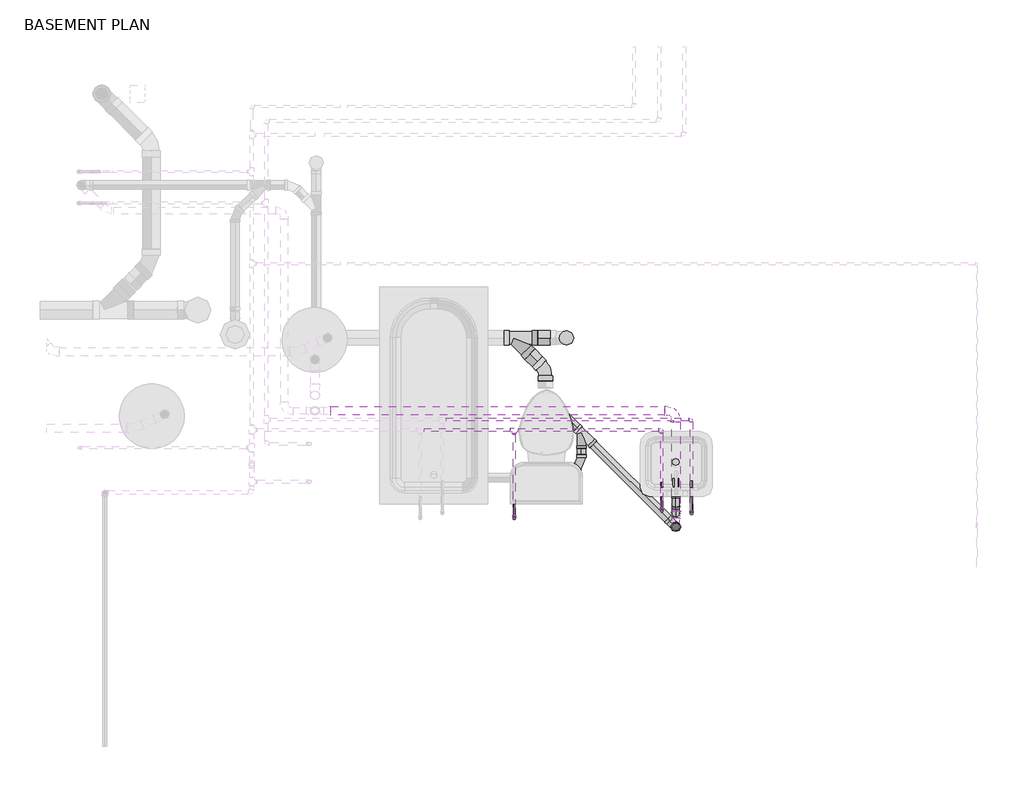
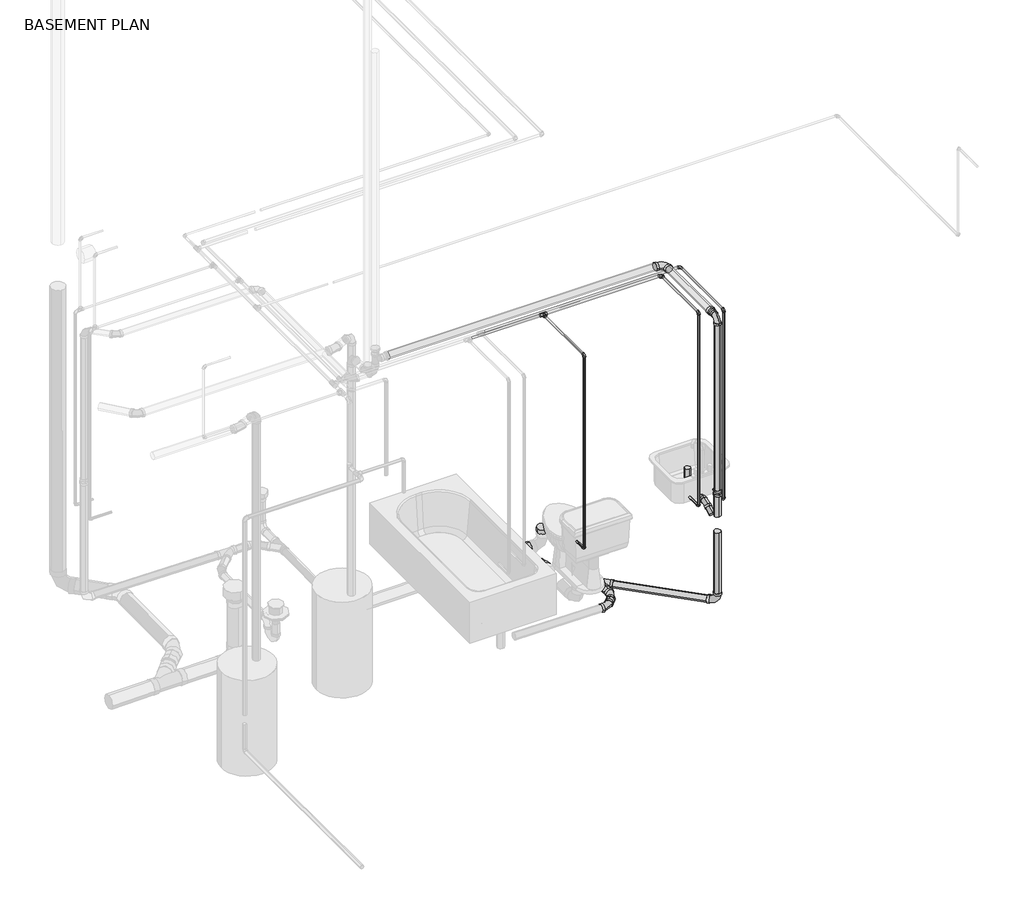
# One storey, part 4 of 6: 27 pipe segments, 23 pipe fittings.
"""IFC4 building model written with IfcOpenShell, lengths in millimetres."""

from ifc_helpers import new_model, si_unit, point, frame, frame_2d, origin, place, context, project, spatial, circle_curve, trimmed, segment, composite_curve, outline, extrude, transform, mapped, element, save
from components import bend_pvc_sch_40_dwv_standard_738aab8b, bend_pvc_sch_40_dwv_standard_a7e4f147, bend_pvc_sch_40_dwv_standard_cc7cb89c, bend_pvc_sch_40_dwv_standard_1eaeee76, bend_pvc_sch_40_dwv_standard_2ee4a350, bend_pvc_sch_40_dwv_standard_797c4d59, ges_wye_45_deg_reducing_pvc_sch_40_dwv_standard_746e6be9, ges_wye_45_deg_reducing_pvc_sch_40_dwv_standard_a6afa046, pipe_elbow_copper_k_feaaf02c, pipe_elbow_copper_k_aad62f2d, pipe_tee_copper_k_ee363fbf, pipe_transition_copper_k_46d96269, pipe_transition_copper_k_859ff352, reducer_pvc_sch_40_dwv_standard_b23fa098, reducer_pvc_sch_40_dwv_standard_230e9924

model = new_model("IFC4")

# Units and contexts
model_context = context("Model", 3, world=origin())
ifc_project = project(units=[si_unit("LENGTHUNIT", "METRE", prefix="MILLI")], contexts=[model_context])

# Site, building, storey
site = spatial("IfcSite", under=ifc_project)
building = spatial("IfcBuilding", under=site)
storey = spatial("IfcBuildingStorey", under=building, Name="BASEMENT PLAN", Elevation=-2743.2)

# Pipe fittings
placement = place(None, origin())
bend_pvc_sch_40_dwv_standard_shape = bend_pvc_sch_40_dwv_standard_738aab8b(model_context)
element("IfcPipeFitting", 1, ObjectType="Bend - PVC - Sch 40 - DWV : Standard", at=placement, inside=storey, context=model_context, shape_type="MappedRepresentation", body=[
    mapped(bend_pvc_sch_40_dwv_standard_shape, transform((15594.199176, 4095.2455332, -344.2899833), x_axis=(0.0, 0.0, 1.0), y_axis=(0.0, 1.0, 0.0), z_axis=(-1.0, 0.0, 0.0))),
])
bend_pvc_sch_40_dwv_standard_2_shape = bend_pvc_sch_40_dwv_standard_a7e4f147(model_context)
element("IfcPipeFitting", 2, ObjectType="Bend - PVC - Sch 40 - DWV : Standard", at=placement, inside=storey, context=model_context, shape_type="MappedRepresentation", body=[
    mapped(bend_pvc_sch_40_dwv_standard_2_shape, transform((14676.5331398, 5200.3173779, -2980.2802919), x_axis=(0.0, 0.9999457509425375, -0.010416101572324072), y_axis=(-0.9999999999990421, -1.441844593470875e-08, -1.3841708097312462e-06), z_axis=(-1.3842459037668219e-06, 0.010416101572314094, 0.9999457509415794))),
])
bend_pvc_sch_40_dwv_standard_3_shape = bend_pvc_sch_40_dwv_standard_cc7cb89c(model_context)
element("IfcPipeFitting", 3, ObjectType="Bend - PVC - Sch 40 - DWV : Standard", at=placement, inside=storey, context=model_context, shape_type="MappedRepresentation", body=[
    mapped(bend_pvc_sch_40_dwv_standard_3_shape, transform((15594.199176, 4269.5548038, -2165.5484433), x_axis=(0.0, -1.0, 0.0), y_axis=(0.0, 0.0, -1.0), z_axis=(1.0, 0.0, 0.0))),
])
bend_pvc_sch_40_dwv_standard_4_shape = bend_pvc_sch_40_dwv_standard_1eaeee76(model_context)
element("IfcPipeFitting", 4, ObjectType="Bend - PVC - Sch 40 - DWV : Standard", at=placement, inside=storey, context=model_context, shape_type="MappedRepresentation", body=[
    mapped(bend_pvc_sch_40_dwv_standard_4_shape, transform((15594.1218834, 4095.1682417, -2974.3840948), x_axis=(0.0, 0.0, -1.0), y_axis=(-0.7071067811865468, 0.7071067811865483, 0.0), z_axis=(0.7071067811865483, 0.7071067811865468, 0.0))),
])
element("IfcPipeFitting", 5, ObjectType="Bend - PVC - Sch 40 - DWV : Standard", at=placement, inside=storey, context=model_context, shape_type="MappedRepresentation", body=[
    mapped(bend_pvc_sch_40_dwv_standard_4_shape, transform((15594.199176, 4910.5049895, -344.2899833), x_axis=(0.0, 1.0, 0.0), y_axis=(-1.0, 0.0, 0.0), z_axis=(0.0, 0.0, 1.0))),
])
bend_pvc_sch_40_dwv_standard_5_shape = bend_pvc_sch_40_dwv_standard_2ee4a350(model_context)
element("IfcPipeFitting", 6, ObjectType="Bend - PVC - Sch 40 - DWV : Standard", at=placement, inside=storey, context=model_context, shape_type="MappedRepresentation", body=[
    mapped(bend_pvc_sch_40_dwv_standard_5_shape, transform((14826.0517602, 4440.7535969, -2971.5701327), x_axis=(0.9999500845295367, 0.0, -0.009991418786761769), y_axis=(-4.7351171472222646e-05, 0.9999887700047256, -0.004738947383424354), z_axis=(0.009991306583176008, 0.004739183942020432, 0.9999388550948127))),
])
bend_pvc_sch_40_dwv_standard_6_shape = bend_pvc_sch_40_dwv_standard_797c4d59(model_context)
element("IfcPipeFitting", 7, ObjectType="Bend - PVC - Sch 40 - DWV : Standard", at=placement, inside=storey, context=model_context, shape_type="MappedRepresentation", body=[
    mapped(bend_pvc_sch_40_dwv_standard_6_shape, transform((14930.5610299, 4545.2628666, -2973.1253177), x_axis=(0.7070671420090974, 0.707067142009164, -0.010588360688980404), y_axis=(-0.7071321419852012, 0.7070687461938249, -0.004233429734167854), z_axis=(0.004493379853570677, 0.010480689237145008, 0.9999349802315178))),
])
ges_wye_45_deg_reducing_pvc_sch_40_dwv_standard_shape = ges_wye_45_deg_reducing_pvc_sch_40_dwv_standard_746e6be9(model_context)
element("IfcPipeFitting", 8, ObjectType="GES Wye 45 Deg Reducing - PVC - Sch 40 - DWV : Standard", at=placement, inside=storey, context=model_context, shape_type="MappedRepresentation", body=[
    mapped(ges_wye_45_deg_reducing_pvc_sch_40_dwv_standard_shape, transform((14453.0219794, 5423.7988348, -2982.6085331), x_axis=(0.9999457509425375, 0.0, 0.010416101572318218), y_axis=(0.0, 1.0, 0.0), z_axis=(-0.010416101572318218, 0.0, 0.9999457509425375))),
])
ges_wye_45_deg_reducing_pvc_sch_40_dwv_standard_2_shape = ges_wye_45_deg_reducing_pvc_sch_40_dwv_standard_a6afa046(model_context)
element("IfcPipeFitting", 9, ObjectType="GES Wye 45 Deg Reducing - PVC - Sch 40 - DWV : Standard", at=placement, inside=storey, context=model_context, shape_type="MappedRepresentation", body=[
    mapped(ges_wye_45_deg_reducing_pvc_sch_40_dwv_standard_2_shape, transform((14930.5610299, 4758.726762, -2975.362712), x_axis=(0.7070925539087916, -0.7070728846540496, 0.008249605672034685), y_axis=(0.7071200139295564, 0.7070630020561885, -0.006572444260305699), z_axis=(-0.0011857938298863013, 0.010480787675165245, 0.9999443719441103))),
])
pipe_elbow_copper_k_shape = pipe_elbow_copper_k_feaaf02c(model_context)
element("IfcPipeFitting", 10, ObjectType="Pipe Elbow : Copper- K", at=placement, inside=storey, context=model_context, shape_type="MappedRepresentation", body=[
    mapped(pipe_elbow_copper_k_shape, transform((15494.8254798, 4776.6618491, -334.4523585), x_axis=(0.0, 1.0, 0.0), y_axis=(-1.0, 0.0, 0.0), z_axis=(0.0, 0.0, 1.0))),
])
pipe_elbow_copper_k_2_shape = pipe_elbow_copper_k_aad62f2d(model_context)
element("IfcPipeFitting", 11, ObjectType="Pipe Elbow : Copper- K", at=placement, inside=storey, context=model_context, shape_type="MappedRepresentation", body=[
    mapped(pipe_elbow_copper_k_2_shape, transform((15704.3754798, 4850.0281655, -372.5523585), x_axis=(0.0, 1.0, 0.0), y_axis=(-1.0, 0.0, 0.0), z_axis=(0.0, 0.0, 1.0))),
])
element("IfcPipeFitting", 12, ObjectType="Pipe Elbow : Copper- K", at=placement, inside=storey, context=model_context, shape_type="MappedRepresentation", body=[
    mapped(pipe_elbow_copper_k_2_shape, transform((15704.3754798, 4189.6281655, -372.5523585), x_axis=(0.0, -1.0, 0.0), y_axis=(0.0, 0.0, -1.0), z_axis=(1.0, 0.0, 0.0))),
])
element("IfcPipeFitting", 13, ObjectType="Pipe Elbow : Copper- K", at=placement, inside=storey, context=model_context, shape_type="MappedRepresentation", body=[
    mapped(pipe_elbow_copper_k_2_shape, transform((15704.3754798, 4189.6281655, -2133.6), x_axis=(0.0, 0.0, -1.0), y_axis=(0.0, 1.0, 0.0), z_axis=(1.0, 0.0, 0.0))),
])
element("IfcPipeFitting", 14, ObjectType="Pipe Elbow : Copper- K", at=placement, inside=storey, context=model_context, shape_type="MappedRepresentation", body=[
    mapped(pipe_elbow_copper_k_2_shape, transform((15494.8254798, 4208.3368491, -334.4523585), x_axis=(0.0, -1.0, 0.0), y_axis=(0.0, 0.0, -1.0), z_axis=(1.0, 0.0, 0.0))),
])
element("IfcPipeFitting", 15, ObjectType="Pipe Elbow : Copper- K", at=placement, inside=storey, context=model_context, shape_type="MappedRepresentation", body=[
    mapped(pipe_elbow_copper_k_2_shape, transform((15494.8254798, 4208.3368491, -2133.6), x_axis=(0.0, 0.0, -1.0), y_axis=(0.0, 1.0, 0.0), z_axis=(1.0, 0.0, 0.0))),
])
element("IfcPipeFitting", 16, ObjectType="Pipe Elbow : Copper- K", at=placement, inside=storey, context=model_context, shape_type="MappedRepresentation", body=[
    mapped(pipe_elbow_copper_k_2_shape, transform((14457.5203863, 4155.9493491, -334.4523585), x_axis=(0.0, -1.0, 0.0), y_axis=(0.0, 0.0, -1.0), z_axis=(1.0, 0.0, 0.0))),
])
element("IfcPipeFitting", 17, ObjectType="Pipe Elbow : Copper- K", at=placement, inside=storey, context=model_context, shape_type="MappedRepresentation", body=[
    mapped(pipe_elbow_copper_k_2_shape, transform((14457.5203863, 4155.9493491, -2133.6), x_axis=(0.0, 0.0, -1.0), y_axis=(0.0, 1.0, 0.0), z_axis=(1.0, 0.0, 0.0))),
])
pipe_tee_copper_k_shape = pipe_tee_copper_k_ee363fbf(model_context)
element("IfcPipeFitting", 18, ObjectType="Pipe Tee : Copper- K", at=placement, inside=storey, context=model_context, shape_type="MappedRepresentation", body=[
    mapped(pipe_tee_copper_k_shape, transform((14457.5203863, 4776.6618491, -334.4523585), x_axis=(-1.0, 0.0, 0.0), y_axis=(0.0, 1.0, 0.0), z_axis=(0.0, 0.0, -1.0))),
])
pipe_transition_copper_k_shape = pipe_transition_copper_k_46d96269(model_context)
element("IfcPipeFitting", 19, ObjectType="Pipe Transition : Copper- K", at=placement, inside=storey, context=model_context, shape_type="MappedRepresentation", body=[
    mapped(pipe_transition_copper_k_shape, transform((15686.9129798, 4850.0281655, -372.5523585), x_axis=(-1.0, 0.0, 0.0), y_axis=(0.0, -1.0, 0.0), z_axis=(0.0, 0.0, 1.0))),
])
pipe_transition_copper_k_2_shape = pipe_transition_copper_k_859ff352(model_context)
element("IfcPipeFitting", 20, ObjectType="Pipe Transition : Copper- K", at=placement, inside=storey, context=model_context, shape_type="MappedRepresentation", body=[
    mapped(pipe_transition_copper_k_2_shape, transform((15494.8254798, 4756.0243491, -334.4523585), x_axis=(0.0, -1.0, 0.0), y_axis=(1.0, 0.0, 0.0), z_axis=(0.0, 0.0, 1.0))),
])
element("IfcPipeFitting", 21, ObjectType="Pipe Transition : Copper- K", at=placement, inside=storey, context=model_context, shape_type="MappedRepresentation", body=[
    mapped(pipe_transition_copper_k_2_shape, transform((14457.5203863, 4749.6743491, -334.4523585), x_axis=(0.0, -1.0, 0.0), y_axis=(1.0, 0.0, 0.0), z_axis=(0.0, 0.0, 1.0))),
])
reducer_pvc_sch_40_dwv_standard_shape = reducer_pvc_sch_40_dwv_standard_b23fa098(model_context)
element("IfcPipeFitting", 22, ObjectType="Reducer - PVC - Sch 40 - DWV : Standard", at=placement, inside=storey, context=model_context, shape_type="MappedRepresentation", body=[
    mapped(reducer_pvc_sch_40_dwv_standard_shape, transform((15594.1218834, 4095.1682417, -1993.0313239), x_axis=(0.0, 0.0, 1.0), y_axis=(0.0, 1.0, 0.0), z_axis=(-1.0, 0.0, 0.0))),
])
reducer_pvc_sch_40_dwv_standard_2_shape = reducer_pvc_sch_40_dwv_standard_230e9924(model_context)
element("IfcPipeFitting", 23, ObjectType="Reducer - PVC - Sch 40 - DWV : Standard", at=placement, inside=storey, context=model_context, shape_type="MappedRepresentation", body=[
    mapped(reducer_pvc_sch_40_dwv_standard_2_shape, transform((15594.199176, 4157.1453332, -344.2899833), x_axis=(0.0, 1.0, 0.0), y_axis=(-1.0, 0.0, 0.0), z_axis=(0.0, 0.0, 1.0))),
])

# Pipe segments
element("IfcPipeSegment", 24, ObjectType="Cast Iron - SAN/STORM", at=placement, inside=storey, context=model_context, shape_type="SweptSolid", body=[
    extrude(outline(composite_curve([segment(trimmed(circle_curve(frame_2d((0.0, 50.4031249)), 50.403125), [point((-50.4017573, 50.031817))], [point((-0.371308, 100.8048823))], False, "CARTESIAN"), True, "CONTINUOUS"), segment(trimmed(circle_curve(frame_2d((0.0, 50.4031249)), 50.403125), [point((-0.371308, 100.8048823))], [point((50.4017573, 50.7744329))], False, "CARTESIAN"), True, "CONTINUOUS"), segment(trimmed(circle_curve(frame_2d((0.0, 50.4031249)), 50.403125), [point((50.4017573, 50.7744329))], [point((0.3713079, 0.0013676))], False, "CARTESIAN"), True, "CONTINUOUS"), segment(trimmed(circle_curve(frame_2d((0.0, 50.4031249)), 50.403125), [point((0.3713079, 0.0013676))], [point((-50.4017573, 50.031817))], False, "CARTESIAN"), True, "CONTINUOUS")], self_intersect=False)), frame((14568.1281316, 5308.1829058, -3031.8099006), z_axis=(0.7071345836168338, -0.7070406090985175, 0.0073659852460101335), x_axis=(0.7070789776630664, 0.7070962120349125, -0.007366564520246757)), (0.0, 0.0, 1.0), 72.3266052),
])
element("IfcPipeSegment", 25, ObjectType="Cast Iron - SAN/STORM", at=placement, inside=storey, context=model_context, shape_type="SweptSolid", body=[
    extrude(outline(composite_curve([segment(trimmed(circle_curve(frame_2d((0.0, 50.403125)), 50.403125), [point((0.0, 0.0))], [point((-50.403125, 50.403125))], False, "CARTESIAN"), True, "CONTINUOUS"), segment(trimmed(circle_curve(frame_2d((0.0, 50.403125)), 50.403125), [point((-50.403125, 50.403125))], [point((0.0, 100.80625))], False, "CARTESIAN"), True, "CONTINUOUS"), segment(trimmed(circle_curve(frame_2d((0.0, 50.403125)), 50.403125), [point((0.0, 100.80625))], [point((50.403125, 50.403125))], False, "CARTESIAN"), True, "CONTINUOUS"), segment(trimmed(circle_curve(frame_2d((0.0, 50.403125)), 50.403125), [point((50.403125, 50.403125))], [point((0.0, 0.0))], False, "CARTESIAN"), True, "CONTINUOUS")], self_intersect=False)), frame((14623.7086568, 5373.3957098, -2980.8305469), z_axis=(0.9999879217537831, 0.0, 0.004914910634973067), x_axis=(0.004914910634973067, 0.0, -0.9999879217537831)), (0.0, 0.0, 1.0), 86.2598355),
])
element("IfcPipeSegment", 26, ObjectType="Cast Iron - SAN/STORM", at=placement, inside=storey, context=model_context, shape_type="SweptSolid", body=[
    extrude(outline(composite_curve([segment(trimmed(circle_curve(frame_2d((0.0, 50.403125)), 50.403125), [point((-50.4031249, 50.403128))], [point((3.1e-06, 100.80625))], False, "CARTESIAN"), True, "CONTINUOUS"), segment(trimmed(circle_curve(frame_2d((0.0, 50.403125)), 50.403125), [point((3.1e-06, 100.80625))], [point((50.403125, 50.4031219))], False, "CARTESIAN"), True, "CONTINUOUS"), segment(trimmed(circle_curve(frame_2d((0.0, 50.403125)), 50.403125), [point((50.403125, 50.4031219))], [point((-3e-06, 0.0))], False, "CARTESIAN"), True, "CONTINUOUS"), segment(trimmed(circle_curve(frame_2d((0.0, 50.403125)), 50.403125), [point((-3e-06, 0.0))], [point((-50.4031249, 50.403128))], False, "CARTESIAN"), True, "CONTINUOUS")], self_intersect=False)), frame((14825.8662506, 5373.3957119, -2863.9512123), z_axis=(0.00021038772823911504, -0.00028696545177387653, 0.9999999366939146), x_axis=(0.9999999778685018, 6.037400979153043e-08, -0.00021038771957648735)), (0.0, 0.0, 1.0), 35.1350724),
])
element("IfcPipeSegment", 27, ObjectType="Cast Iron - SAN/STORM", at=placement, inside=storey, context=model_context, shape_type="SweptSolid", body=[
    extrude(outline(composite_curve([segment(trimmed(circle_curve(frame_2d((15594.1218834, 4095.1682417)), 30.1625), [point((15563.9593834, 4095.1682417))], [point((15594.1218834, 4125.3307417))], False, "CARTESIAN"), True, "CONTINUOUS"), segment(trimmed(circle_curve(frame_2d((15594.1218834, 4095.1682417)), 30.1625), [point((15594.1218834, 4125.3307417))], [point((15624.2843834, 4095.1682417))], False, "CARTESIAN"), True, "CONTINUOUS"), segment(trimmed(circle_curve(frame_2d((15594.1218834, 4095.1682417)), 30.1625), [point((15624.2843834, 4095.1682417))], [point((15594.1218834, 4065.0057417))], False, "CARTESIAN"), True, "CONTINUOUS"), segment(trimmed(circle_curve(frame_2d((15594.1218834, 4095.1682417)), 30.1625), [point((15594.1218834, 4065.0057417))], [point((15563.9593834, 4095.1682417))], False, "CARTESIAN"), True, "CONTINUOUS")], self_intersect=False)), frame((0.0, 0.0, -2183.8173933), z_axis=(0.0, 0.0, 1.0), x_axis=(1.0, 0.0, 0.0)), (0.0, 0.0, 1.0), 190.7860693),
])
element("IfcPipeSegment", 28, ObjectType="Cast Iron - SAN/STORM", at=placement, inside=storey, context=model_context, shape_type="SweptSolid", body=[
    extrude(outline(composite_curve([segment(trimmed(circle_curve(frame_2d((-2165.5484433, 15594.199176)), 24.209375), [point((-2165.5484433, 15569.989801))], [point((-2189.7578183, 15594.199176))], False, "CARTESIAN"), True, "CONTINUOUS"), segment(trimmed(circle_curve(frame_2d((-2165.5484433, 15594.199176)), 24.209375), [point((-2189.7578183, 15594.199176))], [point((-2165.5484433, 15618.408551))], False, "CARTESIAN"), True, "CONTINUOUS"), segment(trimmed(circle_curve(frame_2d((-2165.5484433, 15594.199176)), 24.209375), [point((-2165.5484433, 15618.408551))], [point((-2141.3390683, 15594.199176))], False, "CARTESIAN"), True, "CONTINUOUS"), segment(trimmed(circle_curve(frame_2d((-2165.5484433, 15594.199176)), 24.209375), [point((-2141.3390683, 15594.199176))], [point((-2165.5484433, 15569.989801))], False, "CARTESIAN"), True, "CONTINUOUS")], self_intersect=False)), frame((0.0, 4315.5796038, 0.0), z_axis=(0.0, 1.0, 0.0), x_axis=(0.0, 0.0, 1.0)), (0.0, 0.0, 1.0), 118.4312755),
])
element("IfcPipeSegment", 29, ObjectType="Cast Iron - SAN/STORM", at=placement, inside=storey, context=model_context, shape_type="SweptSolid", body=[
    extrude(outline(composite_curve([segment(trimmed(circle_curve(frame_2d((15594.195025, 4551.6128792)), 24.209375), [point((15569.98565, 4551.6128792))], [point((15594.195025, 4575.8222542))], False, "CARTESIAN"), True, "CONTINUOUS"), segment(trimmed(circle_curve(frame_2d((15594.195025, 4551.6128792)), 24.209375), [point((15594.195025, 4575.8222542))], [point((15618.4044, 4551.6128792))], False, "CARTESIAN"), True, "CONTINUOUS"), segment(trimmed(circle_curve(frame_2d((15594.195025, 4551.6128792)), 24.209375), [point((15618.4044, 4551.6128792))], [point((15594.195025, 4527.4035042))], False, "CARTESIAN"), True, "CONTINUOUS"), segment(trimmed(circle_curve(frame_2d((15594.195025, 4551.6128792)), 24.209375), [point((15594.195025, 4527.4035042))], [point((15569.98565, 4551.6128792))], False, "CARTESIAN"), True, "CONTINUOUS")], self_intersect=False)), frame((0.0, 0.0, -2221.0751411), z_axis=(0.0, 0.0, 1.0), x_axis=(1.0, 0.0, 0.0)), (0.0, 0.0, 1.0), 202.3705313),
])
element("IfcPipeSegment", 30, ObjectType="Cast Iron - SAN/STORM", at=placement, inside=storey, context=model_context, shape_type="SweptSolid", body=[
    extrude(outline(composite_curve([segment(trimmed(circle_curve(frame_2d((0.0, -24.2093749)), 24.209375), [point((-24.209375, -24.2093749))], [point((0.0, 0.0))], False, "CARTESIAN"), True, "CONTINUOUS"), segment(trimmed(circle_curve(frame_2d((0.0, -24.2093749)), 24.209375), [point((0.0, 0.0))], [point((24.209375, -24.2093749))], False, "CARTESIAN"), True, "CONTINUOUS"), segment(trimmed(circle_curve(frame_2d((0.0, -24.2093749)), 24.209375), [point((24.209375, -24.2093749))], [point((0.0, -48.4187499))], False, "CARTESIAN"), True, "CONTINUOUS"), segment(trimmed(circle_curve(frame_2d((0.0, -24.2093749)), 24.209375), [point((0.0, -48.4187499))], [point((-24.209375, -24.2093749))], False, "CARTESIAN"), True, "CONTINUOUS")], self_intersect=False)), frame((15594.1218834, 4194.9750878, -2246.9611062), z_axis=(0.0, 0.8204964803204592, 0.5716515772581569), x_axis=(1.0, 0.0, 0.0)), (0.0, 0.0, 1.0), 61.6438542),
])
element("IfcPipeSegment", 31, ObjectType="Cast Iron - SAN/STORM", at=placement, inside=storey, context=model_context, shape_type="SweptSolid", body=[
    extrude(outline(composite_curve([segment(trimmed(circle_curve(frame_2d((0.0, -30.1624999)), 30.1625), [point((30.1608094, -30.4818535))], [point((-0.3193535, -60.3233093))], False, "CARTESIAN"), True, "CONTINUOUS"), segment(trimmed(circle_curve(frame_2d((0.0, -30.1624999)), 30.1625), [point((-0.3193535, -60.3233093))], [point((-30.1608093, -29.8431464))], False, "CARTESIAN"), True, "CONTINUOUS"), segment(trimmed(circle_curve(frame_2d((0.0, -30.1624999)), 30.1625), [point((-30.1608093, -29.8431464))], [point((0.3193535, -0.0016906))], False, "CARTESIAN"), True, "CONTINUOUS"), segment(trimmed(circle_curve(frame_2d((0.0, -30.1624999)), 30.1625), [point((0.3193535, -0.0016906))], [point((30.1608094, -30.4818535))], False, "CARTESIAN"), True, "CONTINUOUS")], self_intersect=False)), frame((14890.1521427, 4505.3056136, -2942.3610744), z_axis=(-0.7070671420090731, -0.7070671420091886, 0.010588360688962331), x_axis=(0.7071464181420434, -0.7069878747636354, 0.010587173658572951)), (0.0, 0.0, 1.0), 33.506609),
])
element("IfcPipeSegment", 32, ObjectType="Cast Iron - SAN/STORM", at=placement, inside=storey, context=model_context, shape_type="SweptSolid", body=[
    extrude(outline(composite_curve([segment(trimmed(circle_curve(frame_2d((0.0, -30.1625)), 30.1625), [point((30.1625, -30.1625))], [point((0.0, -60.3250001))], False, "CARTESIAN"), True, "CONTINUOUS"), segment(trimmed(circle_curve(frame_2d((0.0, -30.1625)), 30.1625), [point((0.0, -60.3250001))], [point((-30.1625, -30.1625))], False, "CARTESIAN"), True, "CONTINUOUS"), segment(trimmed(circle_curve(frame_2d((0.0, -30.1625)), 30.1625), [point((-30.1625, -30.1625))], [point((0.0, 0.0))], False, "CARTESIAN"), True, "CONTINUOUS"), segment(trimmed(circle_curve(frame_2d((0.0, -30.1625)), 30.1625), [point((0.0, 0.0))], [point((30.1625, -30.1625))], False, "CARTESIAN"), True, "CONTINUOUS")], self_intersect=False)), frame((14930.5610299, 4645.8008279, -2944.0149366), z_axis=(0.0, -0.9999450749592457, 0.010480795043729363), x_axis=(1.0, 0.0, 0.0)), (0.0, 0.0, 1.0), 43.0773392),
])
element("IfcPipeSegment", 33, ObjectType="Cast Iron - SAN/STORM", at=placement, inside=storey, context=model_context, shape_type="SweptSolid", body=[
    extrude(outline(composite_curve([segment(trimmed(circle_curve(frame_2d((-1e-07, 30.1625)), 30.1625), [point((-30.1614736, 29.9136728))], [point((-0.2488272, 60.3239736))], False, "CARTESIAN"), True, "CONTINUOUS"), segment(trimmed(circle_curve(frame_2d((-1e-07, 30.1625)), 30.1625), [point((-0.2488272, 60.3239736))], [point((30.1614736, 30.4113272))], False, "CARTESIAN"), True, "CONTINUOUS"), segment(trimmed(circle_curve(frame_2d((-1e-07, 30.1625)), 30.1625), [point((30.1614736, 30.4113272))], [point((0.2488271, 0.0010263))], False, "CARTESIAN"), True, "CONTINUOUS"), segment(trimmed(circle_curve(frame_2d((-1e-07, 30.1625)), 30.1625), [point((0.2488271, 0.0010263))], [point((-30.1614736, 29.9136728))], False, "CARTESIAN"), True, "CONTINUOUS")], self_intersect=False)), frame((14773.0689507, 4915.8625703, -3007.3606097), z_axis=(0.7070925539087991, -0.7070728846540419, 0.008249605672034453), x_axis=(0.7071210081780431, 0.7070444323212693, -0.008249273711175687)), (0.0, 0.0, 1.0), 178.563697),
])
element("IfcPipeSegment", 34, ObjectType="Cast Iron - SAN/STORM", at=placement, inside=storey, context=model_context, shape_type="SweptSolid", body=[
    extrude(outline(composite_curve([segment(trimmed(circle_curve(frame_2d((0.0, 30.1625)), 30.1625), [point((30.1625, 30.1625))], [point((0.0, 0.0))], False, "CARTESIAN"), True, "CONTINUOUS"), segment(trimmed(circle_curve(frame_2d((0.0, 30.1625)), 30.1625), [point((0.0, 0.0))], [point((-30.1624999, 30.1625))], False, "CARTESIAN"), True, "CONTINUOUS"), segment(trimmed(circle_curve(frame_2d((0.0, 30.1625)), 30.1625), [point((-30.1624999, 30.1625))], [point((0.0, 60.325))], False, "CARTESIAN"), True, "CONTINUOUS"), segment(trimmed(circle_curve(frame_2d((0.0, 30.1625)), 30.1625), [point((0.0, 60.325))], [point((30.1625, 30.1625))], False, "CARTESIAN"), True, "CONTINUOUS")], self_intersect=False)), frame((15539.1088344, 4150.1812906, -2944.2215948), z_axis=(-0.7071067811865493, 0.7071067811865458, 0.0), x_axis=(0.7071067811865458, 0.7071067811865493, 0.0)), (0.0, 0.0, 1.0), 741.9930079),
])
element("IfcPipeSegment", 35, ObjectType="Cast Iron - SAN/STORM", at=placement, inside=storey, context=model_context, shape_type="SweptSolid", body=[
    extrude(outline(composite_curve([segment(trimmed(circle_curve(frame_2d((15594.1218834, 4095.1682417)), 30.1625), [point((15624.2843834, 4095.1682417))], [point((15594.1218834, 4065.0057417))], False, "CARTESIAN"), True, "CONTINUOUS"), segment(trimmed(circle_curve(frame_2d((15594.1218834, 4095.1682417)), 30.1625), [point((15594.1218834, 4065.0057417))], [point((15563.9593834, 4095.1682417))], False, "CARTESIAN"), True, "CONTINUOUS"), segment(trimmed(circle_curve(frame_2d((15594.1218834, 4095.1682417)), 30.1625), [point((15563.9593834, 4095.1682417))], [point((15594.1218834, 4125.3307417))], False, "CARTESIAN"), True, "CONTINUOUS"), segment(trimmed(circle_curve(frame_2d((15594.1218834, 4095.1682417)), 30.1625), [point((15594.1218834, 4125.3307417))], [point((15624.2843834, 4095.1682417))], False, "CARTESIAN"), True, "CONTINUOUS")], self_intersect=False)), frame((0.0, 0.0, -2896.5838948), z_axis=(0.0, 0.0, 1.0), x_axis=(1.0, 0.0, 0.0)), (0.0, 0.0, 1.0), 563.5415015),
])
element("IfcPipeSegment", 36, ObjectType="Cast Iron - VENT", at=placement, inside=storey, context=model_context, shape_type="SweptSolid", body=[
    extrude(outline(composite_curve([segment(trimmed(circle_curve(frame_2d((15594.1218834, 4095.1682417)), 24.209375), [point((15569.9125084, 4095.1682417))], [point((15594.1218834, 4119.3776167))], False, "CARTESIAN"), True, "CONTINUOUS"), segment(trimmed(circle_curve(frame_2d((15594.1218834, 4095.1682417)), 24.209375), [point((15594.1218834, 4119.3776167))], [point((15618.3312584, 4095.1682417))], False, "CARTESIAN"), True, "CONTINUOUS"), segment(trimmed(circle_curve(frame_2d((15594.1218834, 4095.1682417)), 24.209375), [point((15618.3312584, 4095.1682417))], [point((15594.1218834, 4070.9588667))], False, "CARTESIAN"), True, "CONTINUOUS"), segment(trimmed(circle_curve(frame_2d((15594.1218834, 4095.1682417)), 24.209375), [point((15594.1218834, 4070.9588667))], [point((15569.9125084, 4095.1682417))], False, "CARTESIAN"), True, "CONTINUOUS")], self_intersect=False)), frame((0.0, 0.0, -1943.0441239), z_axis=(0.0, 0.0, 1.0), x_axis=(1.0, 0.0, 0.0)), (0.0, 0.0, 1.0), 1536.8543406),
])
element("IfcPipeSegment", 37, ObjectType="Cast Iron - VENT", at=placement, inside=storey, context=model_context, shape_type="SweptSolid", body=[
    extrude(outline(composite_curve([segment(trimmed(circle_curve(frame_2d((-344.2899833, 15594.199176)), 30.1625), [point((-344.2899833, 15624.361676))], [point((-314.1274833, 15594.199176))], False, "CARTESIAN"), True, "CONTINUOUS"), segment(trimmed(circle_curve(frame_2d((-344.2899833, 15594.199176)), 30.1625), [point((-314.1274833, 15594.199176))], [point((-344.2899833, 15564.036676))], False, "CARTESIAN"), True, "CONTINUOUS"), segment(trimmed(circle_curve(frame_2d((-344.2899833, 15594.199176)), 30.1625), [point((-344.2899833, 15564.036676))], [point((-374.4524833, 15594.199176))], False, "CARTESIAN"), True, "CONTINUOUS"), segment(trimmed(circle_curve(frame_2d((-344.2899833, 15594.199176)), 30.1625), [point((-374.4524833, 15594.199176))], [point((-344.2899833, 15624.361676))], False, "CARTESIAN"), True, "CONTINUOUS")], self_intersect=False)), frame((0.0, 4207.1325332, 0.0), z_axis=(0.0, 1.0, 0.0), x_axis=(0.0, 0.0, 1.0)), (0.0, 0.0, 1.0), 625.5722563),
])
element("IfcPipeSegment", 38, ObjectType="Cast Iron - VENT", at=placement, inside=storey, context=model_context, shape_type="SweptSolid", body=[
    extrude(outline(composite_curve([segment(trimmed(circle_curve(frame_2d((4910.5049895, -344.2899833)), 30.1625), [point((4880.3424895, -344.2899833))], [point((4910.5049895, -314.1274833))], False, "CARTESIAN"), True, "CONTINUOUS"), segment(trimmed(circle_curve(frame_2d((4910.5049895, -344.2899833)), 30.1625), [point((4910.5049895, -314.1274833))], [point((4940.6674895, -344.2899833))], False, "CARTESIAN"), True, "CONTINUOUS"), segment(trimmed(circle_curve(frame_2d((4910.5049895, -344.2899833)), 30.1625), [point((4940.6674895, -344.2899833))], [point((4910.5049895, -374.4524833))], False, "CARTESIAN"), True, "CONTINUOUS"), segment(trimmed(circle_curve(frame_2d((4910.5049895, -344.2899833)), 30.1625), [point((4910.5049895, -374.4524833))], [point((4880.3424895, -344.2899833))], False, "CARTESIAN"), True, "CONTINUOUS")], self_intersect=False)), frame((13168.2968972, 0.0, 0.0), z_axis=(1.0, 0.0, 0.0), x_axis=(0.0, 1.0, 0.0)), (0.0, 0.0, 1.0), 2348.1020788),
])
element("IfcPipeSegment", 39, ObjectType="Copper", at=placement, inside=storey, context=model_context, shape_type="SweptSolid", body=[
    extrude(outline(composite_curve([segment(trimmed(circle_curve(frame_2d((4850.0281655, -372.5523585)), 11.1125), [point((4838.9156655, -372.5523585))], [point((4850.0281655, -361.4398585))], False, "CARTESIAN"), True, "CONTINUOUS"), segment(trimmed(circle_curve(frame_2d((4850.0281655, -372.5523585)), 11.1125), [point((4850.0281655, -361.4398585))], [point((4861.1406655, -372.5523585))], False, "CARTESIAN"), True, "CONTINUOUS"), segment(trimmed(circle_curve(frame_2d((4850.0281655, -372.5523585)), 11.1125), [point((4861.1406655, -372.5523585))], [point((4850.0281655, -383.6648585))], False, "CARTESIAN"), True, "CONTINUOUS"), segment(trimmed(circle_curve(frame_2d((4850.0281655, -372.5523585)), 11.1125), [point((4850.0281655, -383.6648585))], [point((4838.9156655, -372.5523585))], False, "CARTESIAN"), True, "CONTINUOUS")], self_intersect=False)), frame((13978.7629798, 0.0, 0.0), z_axis=(1.0, 0.0, 0.0), x_axis=(0.0, 1.0, 0.0)), (0.0, 0.0, 1.0), 1705.371875),
])
element("IfcPipeSegment", 40, ObjectType="Copper", at=placement, inside=storey, context=model_context, shape_type="SweptSolid", body=[
    extrude(outline(composite_curve([segment(trimmed(circle_curve(frame_2d((-372.5523585, 15704.3754798)), 7.9375), [point((-372.5523585, 15696.4379798))], [point((-380.4898585, 15704.3754798))], False, "CARTESIAN"), True, "CONTINUOUS"), segment(trimmed(circle_curve(frame_2d((-372.5523585, 15704.3754798)), 7.9375), [point((-380.4898585, 15704.3754798))], [point((-372.5523585, 15712.3129798))], False, "CARTESIAN"), True, "CONTINUOUS"), segment(trimmed(circle_curve(frame_2d((-372.5523585, 15704.3754798)), 7.9375), [point((-372.5523585, 15712.3129798))], [point((-364.6148585, 15704.3754798))], False, "CARTESIAN"), True, "CONTINUOUS"), segment(trimmed(circle_curve(frame_2d((-372.5523585, 15704.3754798)), 7.9375), [point((-364.6148585, 15704.3754798))], [point((-372.5523585, 15696.4379798))], False, "CARTESIAN"), True, "CONTINUOUS")], self_intersect=False)), frame((0.0, 4207.0906655, 0.0), z_axis=(0.0, 1.0, 0.0), x_axis=(0.0, 0.0, 1.0)), (0.0, 0.0, 1.0), 625.475),
])
element("IfcPipeSegment", 41, ObjectType="Copper", at=placement, inside=storey, context=model_context, shape_type="SweptSolid", body=[
    extrude(outline(composite_curve([segment(trimmed(circle_curve(frame_2d((-2133.6, 15704.3754798)), 7.9375), [point((-2133.6, 15712.3129798))], [point((-2125.6625, 15704.3754798))], False, "CARTESIAN"), True, "CONTINUOUS"), segment(trimmed(circle_curve(frame_2d((-2133.6, 15704.3754798)), 7.9375), [point((-2125.6625, 15704.3754798))], [point((-2133.6, 15696.4379798))], False, "CARTESIAN"), True, "CONTINUOUS"), segment(trimmed(circle_curve(frame_2d((-2133.6, 15704.3754798)), 7.9375), [point((-2133.6, 15696.4379798))], [point((-2141.5375, 15704.3754798))], False, "CARTESIAN"), True, "CONTINUOUS"), segment(trimmed(circle_curve(frame_2d((-2133.6, 15704.3754798)), 7.9375), [point((-2141.5375, 15704.3754798))], [point((-2133.6, 15712.3129798))], False, "CARTESIAN"), True, "CONTINUOUS")], self_intersect=False)), frame((0.0, 4207.0906655, 0.0), z_axis=(0.0, 1.0, 0.0), x_axis=(0.0, 0.0, 1.0)), (0.0, 0.0, 1.0), 211.1375),
])
element("IfcPipeSegment", 42, ObjectType="Copper", at=placement, inside=storey, context=model_context, shape_type="SweptSolid", body=[
    extrude(outline(composite_curve([segment(trimmed(circle_curve(frame_2d((15704.3754798, 4189.6281655)), 7.9375), [point((15712.3129798, 4189.6281655))], [point((15704.3754798, 4181.6906655))], False, "CARTESIAN"), True, "CONTINUOUS"), segment(trimmed(circle_curve(frame_2d((15704.3754798, 4189.6281655)), 7.9375), [point((15704.3754798, 4181.6906655))], [point((15696.4379798, 4189.6281655))], False, "CARTESIAN"), True, "CONTINUOUS"), segment(trimmed(circle_curve(frame_2d((15704.3754798, 4189.6281655)), 7.9375), [point((15696.4379798, 4189.6281655))], [point((15704.3754798, 4197.5656655))], False, "CARTESIAN"), True, "CONTINUOUS"), segment(trimmed(circle_curve(frame_2d((15704.3754798, 4189.6281655)), 7.9375), [point((15704.3754798, 4197.5656655))], [point((15712.3129798, 4189.6281655))], False, "CARTESIAN"), True, "CONTINUOUS")], self_intersect=False)), frame((0.0, 0.0, -2116.1375), z_axis=(0.0, 0.0, 1.0), x_axis=(1.0, 0.0, 0.0)), (0.0, 0.0, 1.0), 1726.1226415),
])
element("IfcPipeSegment", 43, ObjectType="Copper", at=placement, inside=storey, context=model_context, shape_type="SweptSolid", body=[
    extrude(outline(composite_curve([segment(trimmed(circle_curve(frame_2d((4776.6618491, -334.4523585)), 11.1125), [point((4765.5493491, -334.4523585))], [point((4776.6618491, -323.3398585))], False, "CARTESIAN"), True, "CONTINUOUS"), segment(trimmed(circle_curve(frame_2d((4776.6618491, -334.4523585)), 11.1125), [point((4776.6618491, -323.3398585))], [point((4787.7743491, -334.4523585))], False, "CARTESIAN"), True, "CONTINUOUS"), segment(trimmed(circle_curve(frame_2d((4776.6618491, -334.4523585)), 11.1125), [point((4787.7743491, -334.4523585))], [point((4776.6618491, -345.5648585))], False, "CARTESIAN"), True, "CONTINUOUS"), segment(trimmed(circle_curve(frame_2d((4776.6618491, -334.4523585)), 11.1125), [point((4776.6618491, -345.5648585))], [point((4765.5493491, -334.4523585))], False, "CARTESIAN"), True, "CONTINUOUS")], self_intersect=False)), frame((14484.5078863, 0.0, 0.0), z_axis=(1.0, 0.0, 0.0), x_axis=(0.0, 1.0, 0.0)), (0.0, 0.0, 1.0), 989.6800935),
])
element("IfcPipeSegment", 44, ObjectType="Copper", at=placement, inside=storey, context=model_context, shape_type="SweptSolid", body=[
    extrude(outline(composite_curve([segment(trimmed(circle_curve(frame_2d((-334.4523585, 15494.8254798)), 7.9375), [point((-334.4523585, 15486.8879798))], [point((-342.3898585, 15494.8254798))], False, "CARTESIAN"), True, "CONTINUOUS"), segment(trimmed(circle_curve(frame_2d((-334.4523585, 15494.8254798)), 7.9375), [point((-342.3898585, 15494.8254798))], [point((-334.4523585, 15502.7629798))], False, "CARTESIAN"), True, "CONTINUOUS"), segment(trimmed(circle_curve(frame_2d((-334.4523585, 15494.8254798)), 7.9375), [point((-334.4523585, 15502.7629798))], [point((-326.5148585, 15494.8254798))], False, "CARTESIAN"), True, "CONTINUOUS"), segment(trimmed(circle_curve(frame_2d((-334.4523585, 15494.8254798)), 7.9375), [point((-326.5148585, 15494.8254798))], [point((-334.4523585, 15486.8879798))], False, "CARTESIAN"), True, "CONTINUOUS")], self_intersect=False)), frame((0.0, 4225.7993491, 0.0), z_axis=(0.0, 1.0, 0.0), x_axis=(0.0, 0.0, 1.0)), (0.0, 0.0, 1.0), 524.66875),
])
element("IfcPipeSegment", 45, ObjectType="Copper", at=placement, inside=storey, context=model_context, shape_type="SweptSolid", body=[
    extrude(outline(composite_curve([segment(trimmed(circle_curve(frame_2d((-2133.6, 15494.8254798)), 7.9375), [point((-2133.6, 15502.7629798))], [point((-2125.6625, 15494.8254798))], False, "CARTESIAN"), True, "CONTINUOUS"), segment(trimmed(circle_curve(frame_2d((-2133.6, 15494.8254798)), 7.9375), [point((-2125.6625, 15494.8254798))], [point((-2133.6, 15486.8879798))], False, "CARTESIAN"), True, "CONTINUOUS"), segment(trimmed(circle_curve(frame_2d((-2133.6, 15494.8254798)), 7.9375), [point((-2133.6, 15486.8879798))], [point((-2141.5375, 15494.8254798))], False, "CARTESIAN"), True, "CONTINUOUS"), segment(trimmed(circle_curve(frame_2d((-2133.6, 15494.8254798)), 7.9375), [point((-2141.5375, 15494.8254798))], [point((-2133.6, 15502.7629798))], False, "CARTESIAN"), True, "CONTINUOUS")], self_intersect=False)), frame((0.0, 4225.7993491, 0.0), z_axis=(0.0, 1.0, 0.0), x_axis=(0.0, 0.0, 1.0)), (0.0, 0.0, 1.0), 182.5625),
])
element("IfcPipeSegment", 46, ObjectType="Copper", at=placement, inside=storey, context=model_context, shape_type="SweptSolid", body=[
    extrude(outline(composite_curve([segment(trimmed(circle_curve(frame_2d((15494.8254798, 4208.3368491)), 7.9375), [point((15502.7629798, 4208.3368491))], [point((15494.8254798, 4200.3993491))], False, "CARTESIAN"), True, "CONTINUOUS"), segment(trimmed(circle_curve(frame_2d((15494.8254798, 4208.3368491)), 7.9375), [point((15494.8254798, 4200.3993491))], [point((15486.8879798, 4208.3368491))], False, "CARTESIAN"), True, "CONTINUOUS"), segment(trimmed(circle_curve(frame_2d((15494.8254798, 4208.3368491)), 7.9375), [point((15486.8879798, 4208.3368491))], [point((15494.8254798, 4216.2743491))], False, "CARTESIAN"), True, "CONTINUOUS"), segment(trimmed(circle_curve(frame_2d((15494.8254798, 4208.3368491)), 7.9375), [point((15494.8254798, 4216.2743491))], [point((15502.7629798, 4208.3368491))], False, "CARTESIAN"), True, "CONTINUOUS")], self_intersect=False)), frame((0.0, 0.0, -2116.1375), z_axis=(0.0, 0.0, 1.0), x_axis=(1.0, 0.0, 0.0)), (0.0, 0.0, 1.0), 1764.2226415),
])
element("IfcPipeSegment", 47, ObjectType="Copper", at=placement, inside=storey, context=model_context, shape_type="SweptSolid", body=[
    extrude(outline(composite_curve([segment(trimmed(circle_curve(frame_2d((-334.4523585, 14457.5203863)), 7.9375), [point((-334.4523585, 14449.5828863))], [point((-342.3898585, 14457.5203863))], False, "CARTESIAN"), True, "CONTINUOUS"), segment(trimmed(circle_curve(frame_2d((-334.4523585, 14457.5203863)), 7.9375), [point((-342.3898585, 14457.5203863))], [point((-334.4523585, 14465.4578863))], False, "CARTESIAN"), True, "CONTINUOUS"), segment(trimmed(circle_curve(frame_2d((-334.4523585, 14457.5203863)), 7.9375), [point((-334.4523585, 14465.4578863))], [point((-326.5148585, 14457.5203863))], False, "CARTESIAN"), True, "CONTINUOUS"), segment(trimmed(circle_curve(frame_2d((-334.4523585, 14457.5203863)), 7.9375), [point((-326.5148585, 14457.5203863))], [point((-334.4523585, 14449.5828863))], False, "CARTESIAN"), True, "CONTINUOUS")], self_intersect=False)), frame((0.0, 4173.4118491, 0.0), z_axis=(0.0, 1.0, 0.0), x_axis=(0.0, 0.0, 1.0)), (0.0, 0.0, 1.0), 570.70625),
])
element("IfcPipeSegment", 48, ObjectType="Copper", at=placement, inside=storey, context=model_context, shape_type="SweptSolid", body=[
    extrude(outline(composite_curve([segment(trimmed(circle_curve(frame_2d((4776.6618491, -334.4523585)), 11.1125), [point((4765.5493491, -334.4523585))], [point((4776.6618491, -323.3398585))], False, "CARTESIAN"), True, "CONTINUOUS"), segment(trimmed(circle_curve(frame_2d((4776.6618491, -334.4523585)), 11.1125), [point((4776.6618491, -323.3398585))], [point((4787.7743491, -334.4523585))], False, "CARTESIAN"), True, "CONTINUOUS"), segment(trimmed(circle_curve(frame_2d((4776.6618491, -334.4523585)), 11.1125), [point((4787.7743491, -334.4523585))], [point((4776.6618491, -345.5648585))], False, "CARTESIAN"), True, "CONTINUOUS"), segment(trimmed(circle_curve(frame_2d((4776.6618491, -334.4523585)), 11.1125), [point((4776.6618491, -345.5648585))], [point((4765.5493491, -334.4523585))], False, "CARTESIAN"), True, "CONTINUOUS")], self_intersect=False)), frame((13824.1078863, 0.0, 0.0), z_axis=(1.0, 0.0, 0.0), x_axis=(0.0, 1.0, 0.0)), (0.0, 0.0, 1.0), 606.425),
])
element("IfcPipeSegment", 49, ObjectType="Copper", at=placement, inside=storey, context=model_context, shape_type="SweptSolid", body=[
    extrude(outline(composite_curve([segment(trimmed(circle_curve(frame_2d((-2133.6, 14457.5203863)), 7.9375), [point((-2133.6, 14465.4578863))], [point((-2125.6625, 14457.5203863))], False, "CARTESIAN"), True, "CONTINUOUS"), segment(trimmed(circle_curve(frame_2d((-2133.6, 14457.5203863)), 7.9375), [point((-2125.6625, 14457.5203863))], [point((-2133.6, 14449.5828863))], False, "CARTESIAN"), True, "CONTINUOUS"), segment(trimmed(circle_curve(frame_2d((-2133.6, 14457.5203863)), 7.9375), [point((-2133.6, 14449.5828863))], [point((-2141.5375, 14457.5203863))], False, "CARTESIAN"), True, "CONTINUOUS"), segment(trimmed(circle_curve(frame_2d((-2133.6, 14457.5203863)), 7.9375), [point((-2141.5375, 14457.5203863))], [point((-2133.6, 14465.4578863))], False, "CARTESIAN"), True, "CONTINUOUS")], self_intersect=False)), frame((0.0, 4173.4118491, 0.0), z_axis=(0.0, 1.0, 0.0), x_axis=(0.0, 0.0, 1.0)), (0.0, 0.0, 1.0), 134.9375),
])
element("IfcPipeSegment", 50, ObjectType="Copper", at=placement, inside=storey, context=model_context, shape_type="SweptSolid", body=[
    extrude(outline(composite_curve([segment(trimmed(circle_curve(frame_2d((14457.5203863, 4155.9493491)), 7.9375), [point((14465.4578863, 4155.9493491))], [point((14457.5203863, 4148.0118491))], False, "CARTESIAN"), True, "CONTINUOUS"), segment(trimmed(circle_curve(frame_2d((14457.5203863, 4155.9493491)), 7.9375), [point((14457.5203863, 4148.0118491))], [point((14449.5828863, 4155.9493491))], False, "CARTESIAN"), True, "CONTINUOUS"), segment(trimmed(circle_curve(frame_2d((14457.5203863, 4155.9493491)), 7.9375), [point((14449.5828863, 4155.9493491))], [point((14457.5203863, 4163.8868491))], False, "CARTESIAN"), True, "CONTINUOUS"), segment(trimmed(circle_curve(frame_2d((14457.5203863, 4155.9493491)), 7.9375), [point((14457.5203863, 4163.8868491))], [point((14465.4578863, 4155.9493491))], False, "CARTESIAN"), True, "CONTINUOUS")], self_intersect=False)), frame((0.0, 0.0, -2116.1375), z_axis=(0.0, 0.0, 1.0), x_axis=(1.0, 0.0, 0.0)), (0.0, 0.0, 1.0), 1764.2226415),
])

save(model, "model.ifc")
